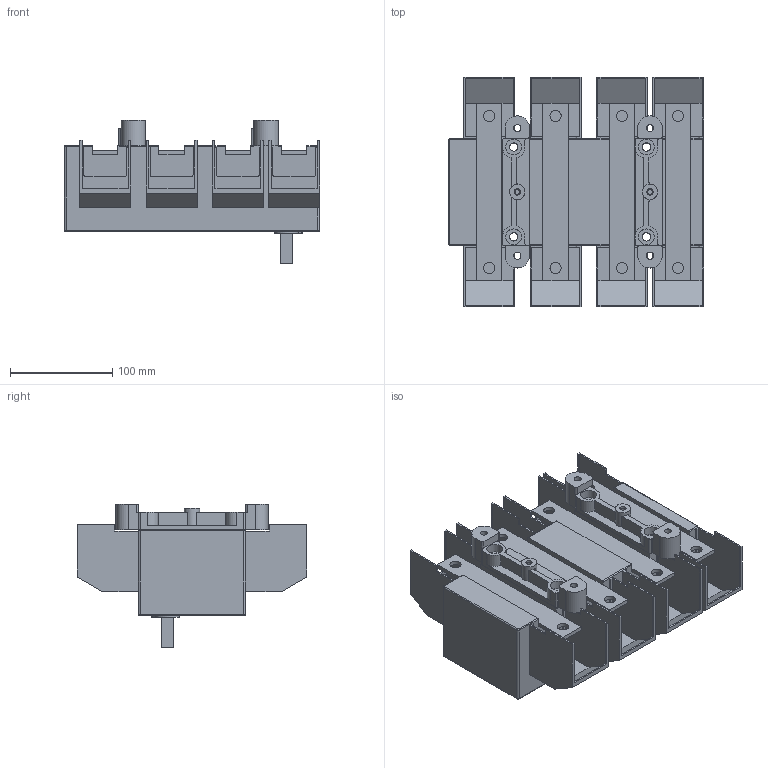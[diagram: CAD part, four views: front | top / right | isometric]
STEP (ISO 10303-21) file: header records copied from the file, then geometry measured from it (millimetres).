
FILE_DESCRIPTION(/* description */ (''),/* implementation_level */ '2;1');
FILE_NAME(/* name */ 'RA400 P3 N z oslona zaciskow.stp',/* time_stamp */ '2021-08-18T13:06:32+02:00',/* author */ (''),/* organization */ (''),/* preprocessor_version */ 'ST-DEVELOPER v18.1',/* originating_system */ 'SIEMENS PLM Software NX 1965',/* authorisation */ '');
FILE_SCHEMA (('AUTOMOTIVE_DESIGN { 1 0 10303 214 3 1 1 1 }'));
Length unit declared in the file: millimetre
Products named in the file (1): RA400 P3 N z oslona zaciskow_stp
Bounding box: 250 x 225 x 141 mm (x, y, z)
Volume: 2388639.1 mm3; surface area: 334617.4 mm2
Topology: 1 solids, 1 shells, 418 faces, 1150 edges, 754 vertices
Faces by surface type: plane 306, cylinder 104, torus 5, bspline 3
Full cylindrical faces by diameter (mm): 4.8 x2, 6.2 x2, 7 x4, 8.2 x4, 11 x8, 14 x4, 15 x2, 15.5 x4
Entity records: 13125 total; most frequent: CARTESIAN_POINT 2352, ORIENTED_EDGE 2232, DIRECTION 2168, EDGE_CURVE 1116, LINE 892, VECTOR 892, VERTEX_POINT 750, AXIS2_PLACEMENT_3D 638
